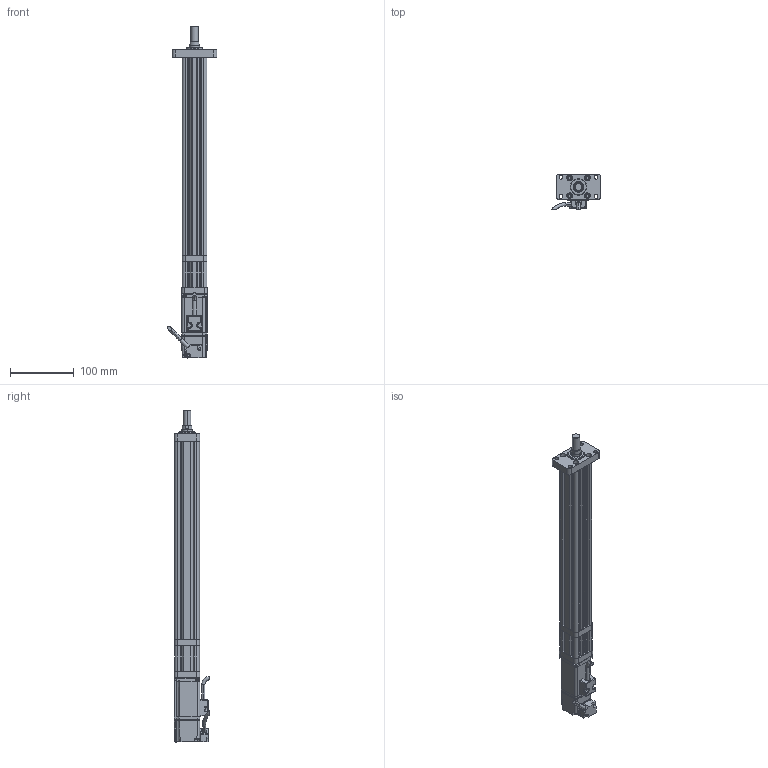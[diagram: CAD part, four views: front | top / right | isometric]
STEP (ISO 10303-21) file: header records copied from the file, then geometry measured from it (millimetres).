
FILE_DESCRIPTION (( 'STEP AP214' ), '1' );
FILE_NAME ('039-S250-D02-A-M3-C1-2.STEP', '2021-03-02T05:26:57', ( '' ), ( '' ), 'SwSTEP 2.0', 'SolidWorks 2018', '' );
FILE_SCHEMA (( 'AUTOMOTIVE_DESIGN' ));
Length unit declared in the file: millimetre
Products named in the file (8): CMC039-DT; CMC039-DJZ; CMC039-GT; CMC039-ZLLJB; CMC039-FL1; ECMA-CX0401ES-40框號系列機種-100W低慣量系列; CMC039-AZB; 039-S250-D02-A-M3-C1-2
Assembly tree (7 placements, depth 2):
  039-S250-D02-A-M3-C1-2
    CMC039-GT
    CMC039-DT
    CMC039-ZLLJB
    CMC039-DJZ
    ECMA-CX0401ES-40框號系列機種-100W低慣量系列
    CMC039-AZB
    CMC039-FL1
Bounding box: 77.83 x 55.39 x 519.6 mm (x, y, z)
Volume: 523498.8 mm3; surface area: 168339.8 mm2
Topology: 7 solids, 15 shells, 716 faces, 1884 edges, 1183 vertices
Faces by surface type: cylinder 298, plane 293, bspline 84, cone 41
Entity records: 28264 total; most frequent: CARTESIAN_POINT 11275, ORIENTED_EDGE 3702, DIRECTION 3045, EDGE_CURVE 1851, VERTEX_POINT 1183, AXIS2_PLACEMENT_3D 1040, LINE 965, VECTOR 965
